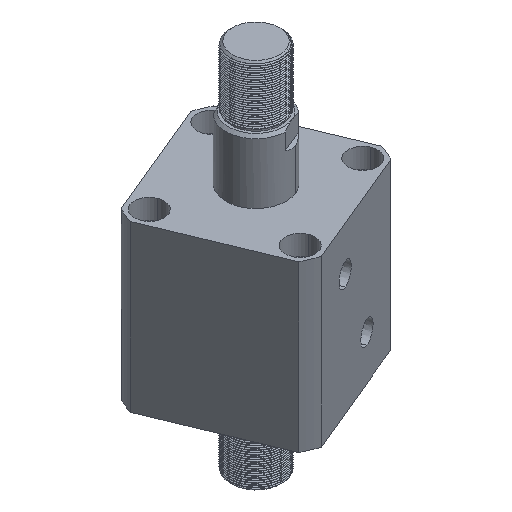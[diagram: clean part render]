
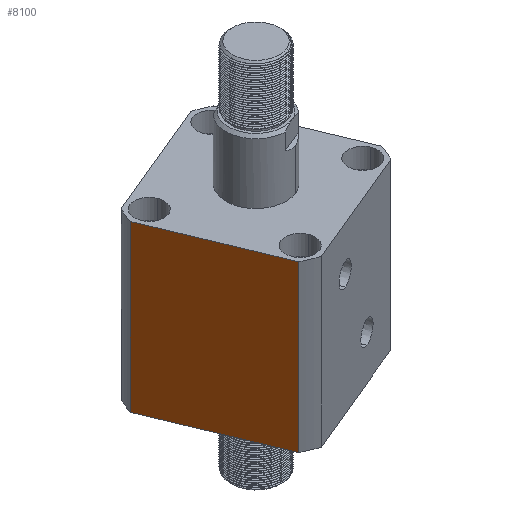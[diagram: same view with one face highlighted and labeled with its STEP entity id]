
A CAD part, isometric view. The second image highlights one B-rep face of the part: STEP entity #8100.
In plain terms, the highlighted planar face has unit normal (-0.924, -0.383, 0) as drawn and (1, 0, 0) by its records, which use the part's own axes.
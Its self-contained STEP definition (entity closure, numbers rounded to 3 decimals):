
#928 = EDGE_LOOP ( 'NONE', ( #17749, #7057, #5751, #10885 ) ) ;
#1461 = EDGE_CURVE ( 'NONE', #7511, #2492, #2307, .T. ) ;
#2307 = LINE ( 'NONE', #21569, #17791 ) ;
#2492 = VERTEX_POINT ( 'NONE', #22936 ) ;
#2504 = CARTESIAN_POINT ( 'NONE',  ( 57., 57., 123. ) ) ;
#3726 = DIRECTION ( 'NONE',  ( 0., 0., -1. ) ) ;
#4406 = DIRECTION ( 'NONE',  ( 0., -1., 0. ) ) ;
#4564 = DIRECTION ( 'NONE',  ( 0., 1., 0. ) ) ;
#5751 = ORIENTED_EDGE ( 'NONE', *, *, #6753, .F. ) ;
#6753 = EDGE_CURVE ( 'NONE', #6894, #18324, #25988, .T. ) ;
#6894 = VERTEX_POINT ( 'NONE', #20327 ) ;
#7057 = ORIENTED_EDGE ( 'NONE', *, *, #10011, .T. ) ;
#7511 = VERTEX_POINT ( 'NONE', #12433 ) ;
#7544 = CARTESIAN_POINT ( 'NONE',  ( 57., 47.971, 0. ) ) ;
#7654 = DIRECTION ( 'NONE',  ( 0., 0., 1. ) ) ;
#8100 = ADVANCED_FACE ( 'NONE', ( #13436 ), #14498, .F. ) ;
#10011 = EDGE_CURVE ( 'NONE', #7511, #18324, #10830, .T. ) ;
#10462 = CARTESIAN_POINT ( 'NONE',  ( 57., 57., 123. ) ) ;
#10493 = LINE ( 'NONE', #2504, #14563 ) ;
#10830 = LINE ( 'NONE', #21681, #15556 ) ;
#10885 = ORIENTED_EDGE ( 'NONE', *, *, #14749, .F. ) ;
#12433 = CARTESIAN_POINT ( 'NONE',  ( 57., -47.971, 0. ) ) ;
#13436 = FACE_OUTER_BOUND ( 'NONE', #928, .T. ) ;
#14498 = PLANE ( 'NONE',  #23664 ) ;
#14563 = VECTOR ( 'NONE', #4564, 1000. ) ;
#14749 = EDGE_CURVE ( 'NONE', #2492, #6894, #10493, .T. ) ;
#15556 = VECTOR ( 'NONE', #19672, 1000. ) ;
#16518 = DIRECTION ( 'NONE',  ( -1., 0., 0. ) ) ;
#17749 = ORIENTED_EDGE ( 'NONE', *, *, #1461, .F. ) ;
#17791 = VECTOR ( 'NONE', #7654, 1000. ) ;
#18324 = VERTEX_POINT ( 'NONE', #7544 ) ;
#19672 = DIRECTION ( 'NONE',  ( 0., 1., 0. ) ) ;
#19812 = CARTESIAN_POINT ( 'NONE',  ( 57., 47.971, -177. ) ) ;
#20327 = CARTESIAN_POINT ( 'NONE',  ( 57., 47.971, 123. ) ) ;
#21569 = CARTESIAN_POINT ( 'NONE',  ( 57., -47.971, -177. ) ) ;
#21681 = CARTESIAN_POINT ( 'NONE',  ( 57., 57., 0. ) ) ;
#22936 = CARTESIAN_POINT ( 'NONE',  ( 57., -47.971, 123. ) ) ;
#23664 = AXIS2_PLACEMENT_3D ( 'NONE', #10462, #16518, #4406 ) ;
#25380 = VECTOR ( 'NONE', #3726, 1000. ) ;
#25988 = LINE ( 'NONE', #19812, #25380 ) ;
